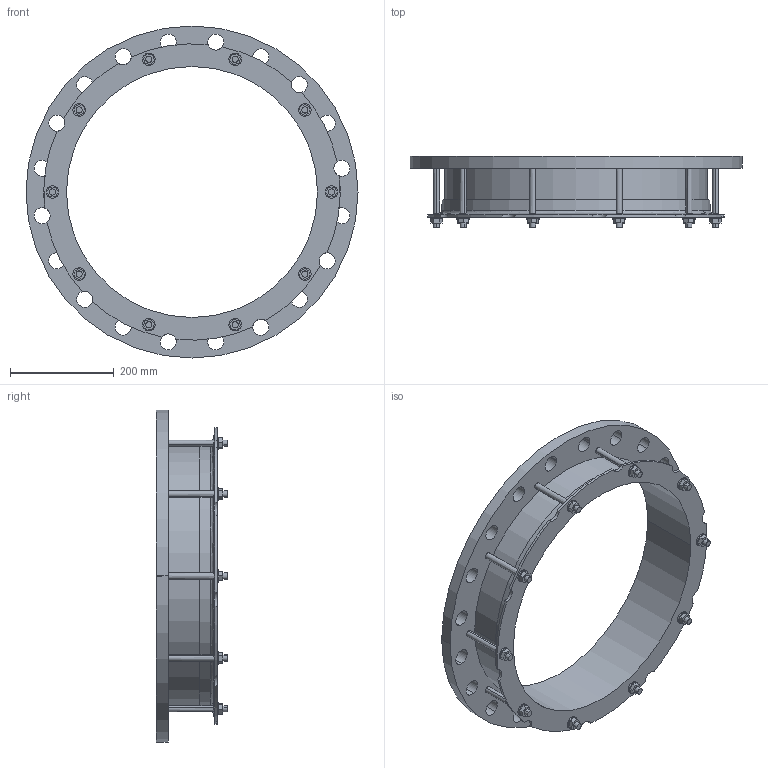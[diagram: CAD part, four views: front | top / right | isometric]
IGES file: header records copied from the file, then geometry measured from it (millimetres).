
Start section:  PTC IGES file: 480x450pn16_10not.igs
Global section: file name: 480x450pn16_10not.igs; native system: Creo Parametric by PTC Inc.; preprocessor: 2016130; author: mfairey; organization: Unknown; date: 20190116.121558; units: millimetre
Bounding box: 640 x 137.45 x 640 mm (x, y, z)
Surface area: 805729.2 mm2 (no closed solid volume)
Topology: 0 solids, 0 shells, 226 faces, 1208 edges, 1208 vertices
Faces by surface type: revolution 132, bspline 94
